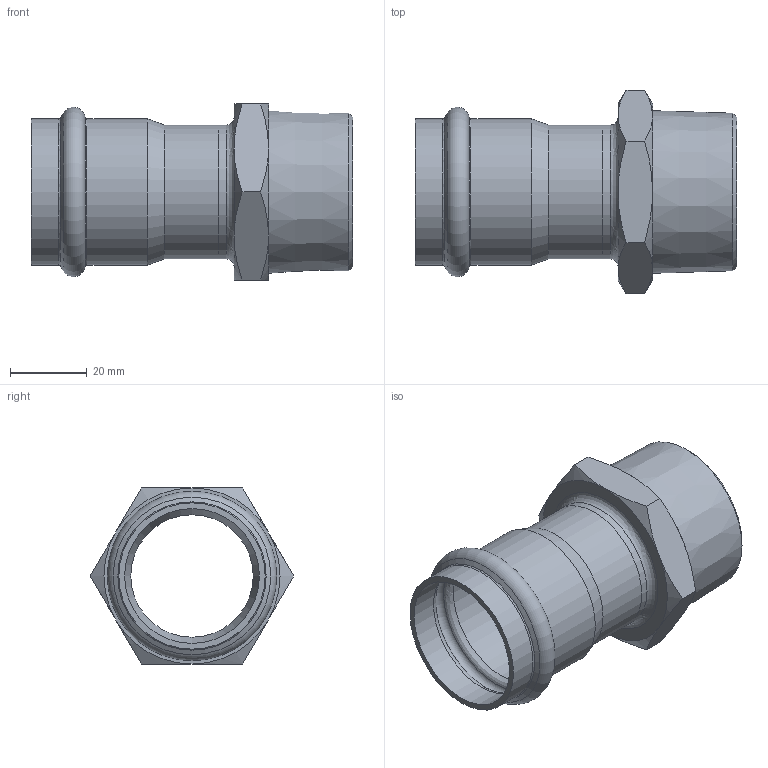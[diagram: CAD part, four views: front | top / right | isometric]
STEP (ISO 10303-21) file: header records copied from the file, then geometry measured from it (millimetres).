
FILE_DESCRIPTION((''),'2;1');
FILE_NAME('G:\Nirosan-Schmiedefeld\Technics\CAD\001 Serie 9.000\035\69243G35114H(1).stp','2017-10-23T12:37:21',('herberg'),(''),'Autodesk Inventor 2009','Autodesk Inventor 2009','');
FILE_SCHEMA(('AUTOMOTIVE_DESIGN { 1 0 10303 214 1 1 1 1 }'));
Length unit declared in the file: millimetre
Products named in the file (3): 69243G35114H(1); HM_69270G35(1); AG35114(3)
Assembly tree (2 placements, depth 2):
  69243G35114H(1)
    HM_69270G35(1)
    AG35114(3)
Bounding box: 84 x 53.12 x 46 mm (x, y, z)
Volume: 27091.4 mm3; surface area: 22306.2 mm2
Topology: 2 solids, 2 shells, 47 faces, 97 edges, 56 vertices
Faces by surface type: cone 18, plane 12, bspline 8, cylinder 7, torus 2
Full cylindrical faces by diameter (mm): 32 x1, 35 x2, 35.25 x2, 38.25 x2
Entity records: 1379 total; most frequent: CARTESIAN_POINT 493, DIRECTION 174, ORIENTED_EDGE 140, AXIS2_PLACEMENT_3D 84, EDGE_LOOP 76, EDGE_CURVE 70, VERTEX_POINT 52, FACE_OUTER_BOUND 47
